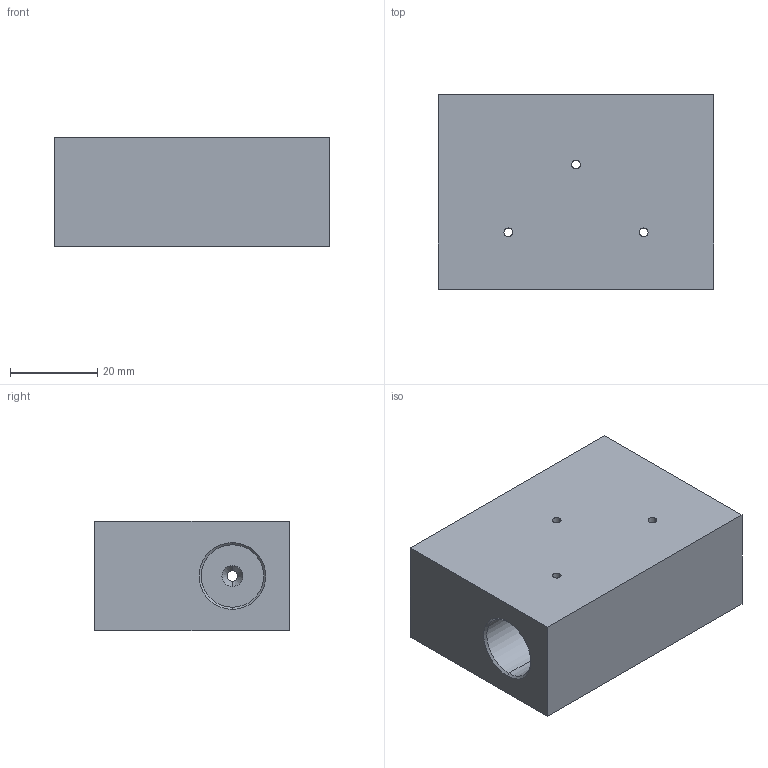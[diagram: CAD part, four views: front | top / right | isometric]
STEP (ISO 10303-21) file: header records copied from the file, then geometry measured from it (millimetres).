
FILE_DESCRIPTION (( 'STEP AP203' ), '1' );
FILE_NAME ('FT100TS04.STEP', '2026-06-26T01:34:18', ( 'USER' ), ( '' ), 'SwSTEP 2.0', 'SolidWorks 2023', '' );
FILE_SCHEMA (( 'CONFIG_CONTROL_DESIGN' ));
Length unit declared in the file: millimetre
Products named in the file (1): FT100TS04
Bounding box: 63 x 44.5 x 25 mm (x, y, z)
Volume: 61326 mm3; surface area: 13751.2 mm2
Topology: 1 solids, 1 shells, 44 faces, 114 edges, 68 vertices
Faces by surface type: cylinder 23, cone 12, plane 9
Entity records: 1613 total; most frequent: CARTESIAN_POINT 441, DIRECTION 228, ORIENTED_EDGE 228, EDGE_CURVE 114, AXIS2_PLACEMENT_3D 87, VERTEX_POINT 68, EDGE_LOOP 56, VECTOR 54
